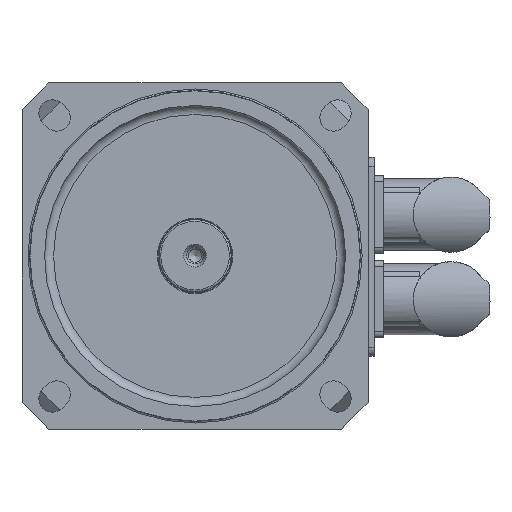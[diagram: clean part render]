
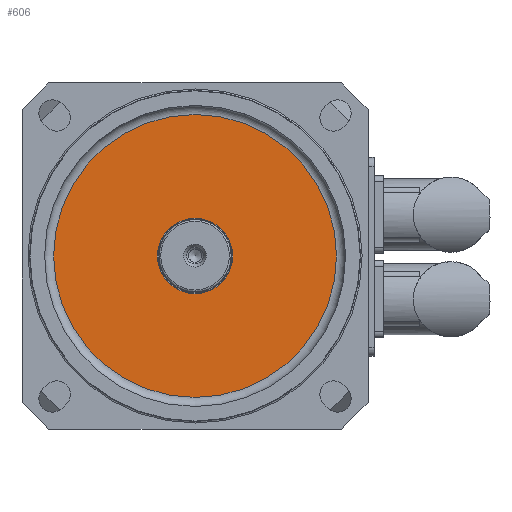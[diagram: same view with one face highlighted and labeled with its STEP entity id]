
A CAD part, top view. The second image highlights one B-rep face of the part: STEP entity #606.
In plain terms, the highlighted planar face has unit normal (0, 0, 1).
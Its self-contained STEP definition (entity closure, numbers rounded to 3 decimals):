
#606=ADVANCED_FACE('',(#929),#858,.F.);
#858=PLANE('',#4889);
#929=FACE_OUTER_BOUND('',#1190,.T.);
#1190=EDGE_LOOP('',(#1915));
#1514=CIRCLE('',#4888,47.);
#1915=ORIENTED_EDGE('',*,*,#3718,.T.);
#3209=VERTEX_POINT('',#7192);
#3718=EDGE_CURVE('',#3209,#3209,#1514,.T.);
#4888=AXIS2_PLACEMENT_3D('',#7191,#5570,#5571);
#4889=AXIS2_PLACEMENT_3D('',#7193,#5572,#5573);
#5570=DIRECTION('',(0.,0.,1.));
#5571=DIRECTION('',(-1.,0.,0.));
#5572=DIRECTION('',(0.,0.,-1.));
#5573=DIRECTION('',(-1.,0.,0.));
#7191=CARTESIAN_POINT('',(0.,0.,31.));
#7192=CARTESIAN_POINT('',(-47.,0.,31.));
#7193=CARTESIAN_POINT('',(0.,0.,31.));
